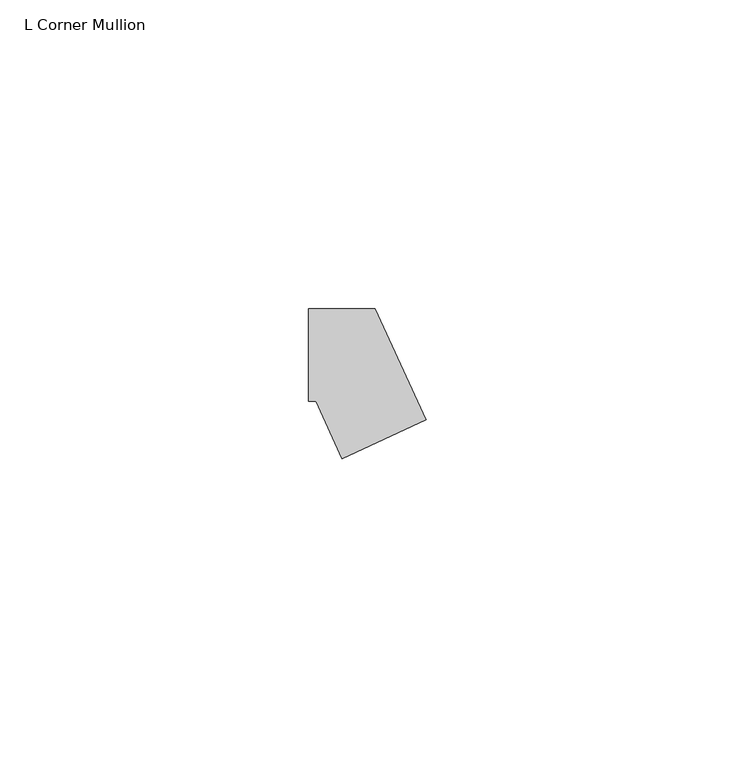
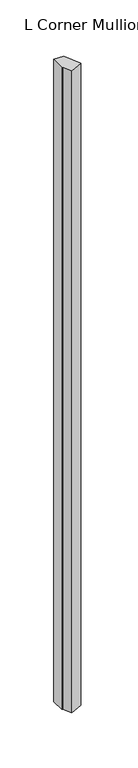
"""IFC4 building model written with IfcOpenShell, lengths in millimetres: member geometry, L Corner Mullion : ARQ_HERR_15X6mm."""

from ifc_helpers import new_model, si_unit, frame, origin, place, context, project, spatial, polyline, outline, extrude, source, transform, mapped, element, save


def l_corner_mullion_f6289c26(model_context):
    return source(origin(), model_context, "Body", "SweptSolid", [
        extrude(outline(polyline([(-0.5775282, -16.7605627), (-4.8156946, -7.5), (-6.0, -7.5), (-6.0, 7.5), (4.8156946, 7.5), (13.0619332, -10.5183601), (-0.5775282, -16.7605627)])), frame((0.0, 0.0, -731.5298429), z_axis=(0.0, 0.0, 1.0), x_axis=(1.0, 0.0, 0.0)), (0.0, 0.0, 1.0), 731.5298429),
    ])


if __name__ == "__main__":
    model = new_model("IFC4")
    model_context = context("Model", 3, world=origin())
    ifc_project = project(units=[si_unit("LENGTHUNIT", "METRE", prefix="MILLI")], contexts=[model_context])
    site = spatial("IfcSite", under=ifc_project)
    building = spatial("IfcBuilding", under=site)
    placement = place(None, origin())
    l_corner_mullion_shape = l_corner_mullion_f6289c26(model_context)
    element("IfcMember", 1, ObjectType="L Corner Mullion : ARQ_HERR_15X6mm", at=placement, inside=building, context=model_context, shape_type="MappedRepresentation", body=[
        mapped(l_corner_mullion_shape, transform((0.0, 0.0, 0.0), x_axis=(1.0, 0.0, 0.0), y_axis=(0.0, 1.0, 0.0), z_axis=(0.0, 0.0, 1.0))),
    ])
    save(model, "model.ifc")
